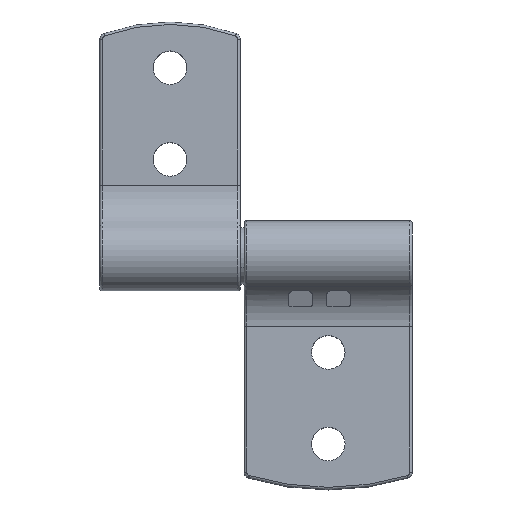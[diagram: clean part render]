
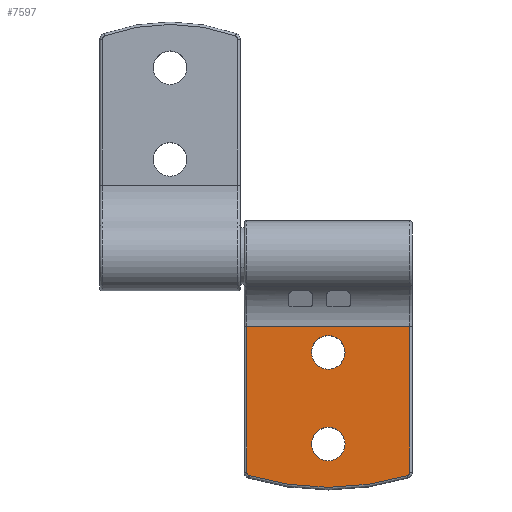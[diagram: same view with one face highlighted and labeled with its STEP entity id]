
A CAD part, top view. The second image highlights one B-rep face of the part: STEP entity #7597.
In plain terms, the highlighted planar face has unit normal (0, 0.006, 1) as drawn and (0, 0, 1) by its records, which use the part's own axes.
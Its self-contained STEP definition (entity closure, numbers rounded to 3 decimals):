
#5425=DIRECTION('',(-1.,0.,0.));
#5426=VECTOR('',#5425,26.7);
#5427=CARTESIAN_POINT('',(13.369,4.701,-0.9));
#5428=LINE('',#5427,#5426);
#5636=DIRECTION('',(0.,1.,0.));
#5637=VECTOR('',#5636,23.831);
#5638=CARTESIAN_POINT('',(13.369,-19.13,-0.9));
#5639=LINE('',#5638,#5637);
#5743=DIRECTION('',(0.,-1.,0.));
#5744=VECTOR('',#5743,23.831);
#5745=CARTESIAN_POINT('',(-13.331,4.701,-0.9));
#5746=LINE('',#5745,#5744);
#6180=CARTESIAN_POINT('',(12.769,-19.13,-0.9));
#6181=DIRECTION('',(0.,0.,-1.));
#6182=DIRECTION('',(1.,0.,0.));
#6183=AXIS2_PLACEMENT_3D('',#6180,#6181,#6182);
#6185=CARTESIAN_POINT('',(0.019,22.819,-0.9));
#6186=DIRECTION('',(0.,0.,-1.));
#6187=DIRECTION('',(0.291,-0.957,0.));
#6188=AXIS2_PLACEMENT_3D('',#6185,#6186,#6187);
#6190=CARTESIAN_POINT('',(-12.731,-19.13,-0.9));
#6191=DIRECTION('',(0.,0.,-1.));
#6192=DIRECTION('',(-0.291,-0.957,0.));
#6193=AXIS2_PLACEMENT_3D('',#6190,#6191,#6192);
#6195=CARTESIAN_POINT('',(0.019,-14.525,-0.9));
#6196=DIRECTION('',(0.,0.,1.));
#6197=DIRECTION('',(1.,0.,0.));
#6198=AXIS2_PLACEMENT_3D('',#6195,#6196,#6197);
#6200=CARTESIAN_POINT('',(0.019,-14.525,-0.9));
#6201=DIRECTION('',(0.,0.,1.));
#6202=DIRECTION('',(-1.,0.,0.));
#6203=AXIS2_PLACEMENT_3D('',#6200,#6201,#6202);
#6205=CARTESIAN_POINT('',(0.019,0.475,-0.9));
#6206=DIRECTION('',(0.,0.,1.));
#6207=DIRECTION('',(1.,0.,0.));
#6208=AXIS2_PLACEMENT_3D('',#6205,#6206,#6207);
#6210=CARTESIAN_POINT('',(0.019,0.475,-0.9));
#6211=DIRECTION('',(0.,0.,1.));
#6212=DIRECTION('',(-1.,0.,0.));
#6213=AXIS2_PLACEMENT_3D('',#6210,#6211,#6212);
#6459=CARTESIAN_POINT('',(13.369,4.701,-0.9));
#6460=VERTEX_POINT('',#6459);
#6461=CARTESIAN_POINT('',(-13.331,4.701,-0.9));
#6462=VERTEX_POINT('',#6461);
#6560=CARTESIAN_POINT('',(13.369,-19.13,-0.9));
#6561=VERTEX_POINT('',#6560);
#6562=CARTESIAN_POINT('',(12.943,-19.704,-0.9));
#6563=VERTEX_POINT('',#6562);
#6564=CARTESIAN_POINT('',(-12.906,-19.704,-0.9));
#6565=VERTEX_POINT('',#6564);
#6567=CARTESIAN_POINT('',(-13.331,-19.13,-0.9));
#6569=VERTEX_POINT('',#6567);
#6687=CARTESIAN_POINT('',(2.769,-14.525,-0.9));
#6688=CARTESIAN_POINT('',(-2.731,-14.525,-0.9));
#6689=VERTEX_POINT('',#6687);
#6690=VERTEX_POINT('',#6688);
#6691=CARTESIAN_POINT('',(2.769,0.475,-0.9));
#6692=CARTESIAN_POINT('',(-2.731,0.475,-0.9));
#6693=VERTEX_POINT('',#6691);
#6694=VERTEX_POINT('',#6692);
#7572=CARTESIAN_POINT('',(-13.731,-22.025,-0.9));
#7573=DIRECTION('',(0.,0.,-1.));
#7574=DIRECTION('',(0.,-1.,0.));
#7575=AXIS2_PLACEMENT_3D('',#7572,#7573,#7574);
#7576=PLANE('',#7575);
#7577=ORIENTED_EDGE('',*,*,#6719,.F.);
#7578=ORIENTED_EDGE('',*,*,#6938,.F.);
#7579=ORIENTED_EDGE('',*,*,#7029,.T.);
#7580=ORIENTED_EDGE('',*,*,#7043,.T.);
#7581=ORIENTED_EDGE('',*,*,#7057,.T.);
#7582=ORIENTED_EDGE('',*,*,#7072,.F.);
#7583=EDGE_LOOP('',(#7577,#7578,#7579,#7580,#7581,#7582));
#7584=FACE_OUTER_BOUND('',#7583,.F.);
#7586=ORIENTED_EDGE('',*,*,#7585,.T.);
#7588=ORIENTED_EDGE('',*,*,#7587,.T.);
#7589=EDGE_LOOP('',(#7586,#7588));
#7590=FACE_BOUND('',#7589,.F.);
#7592=ORIENTED_EDGE('',*,*,#7591,.T.);
#7594=ORIENTED_EDGE('',*,*,#7593,.T.);
#7595=EDGE_LOOP('',(#7592,#7594));
#7596=FACE_BOUND('',#7595,.F.);
#7597=ADVANCED_FACE('',(#7584,#7590,#7596),#7576,.F.);
#6184=CIRCLE('',#6183,0.6);
#6189=CIRCLE('',#6188,44.444);
#6194=CIRCLE('',#6193,0.6);
#6199=CIRCLE('',#6198,2.75);
#6204=CIRCLE('',#6203,2.75);
#6209=CIRCLE('',#6208,2.75);
#6214=CIRCLE('',#6213,2.75);
#6719=EDGE_CURVE('',#6460,#6462,#5428,.T.);
#6938=EDGE_CURVE('',#6561,#6460,#5639,.T.);
#7029=EDGE_CURVE('',#6561,#6563,#6184,.T.);
#7043=EDGE_CURVE('',#6563,#6565,#6189,.T.);
#7057=EDGE_CURVE('',#6565,#6569,#6194,.T.);
#7072=EDGE_CURVE('',#6462,#6569,#5746,.T.);
#7585=EDGE_CURVE('',#6689,#6690,#6199,.T.);
#7587=EDGE_CURVE('',#6690,#6689,#6204,.T.);
#7591=EDGE_CURVE('',#6693,#6694,#6209,.T.);
#7593=EDGE_CURVE('',#6694,#6693,#6214,.T.);
